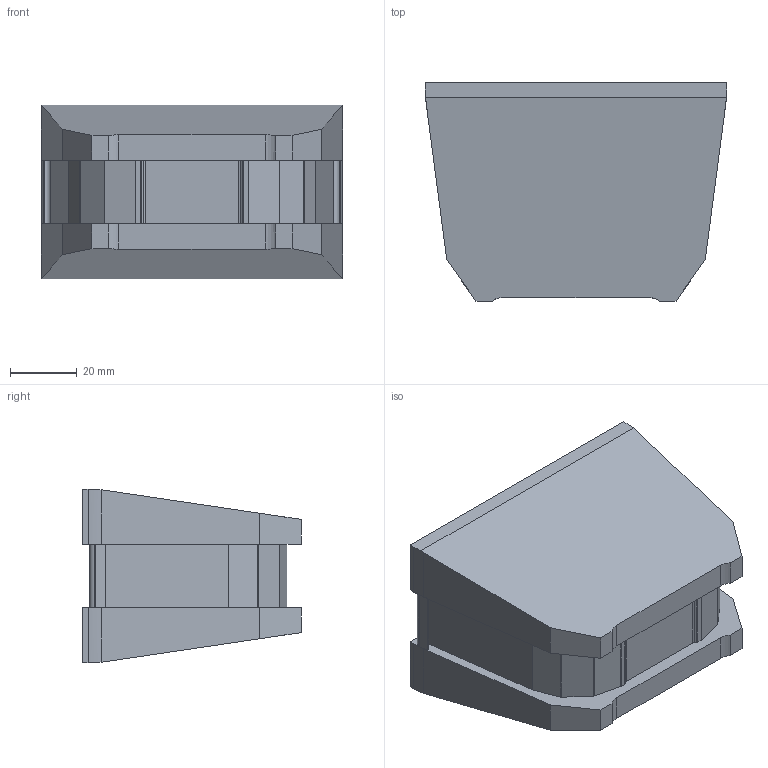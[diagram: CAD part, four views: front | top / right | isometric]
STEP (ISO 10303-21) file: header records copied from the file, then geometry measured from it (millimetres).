
FILE_DESCRIPTION (( 'STEP AP214' ), '1' );
FILE_NAME ('Besteckschale NL 50 L52.step', '2010-09-21T13:13:29', ( 'grass' ), ( '' ), 'SwSTEP 2.0', 'SolidWorks 2010', '' );
FILE_SCHEMA (( 'AUTOMOTIVE_DESIGN' ));
Length unit declared in the file: millimetre
Products named in the file (1): Besteckschale NL 50 L52
Bounding box: 90.5 x 65.5 x 52 mm (x, y, z)
Volume: 49676.2 mm3; surface area: 36467.6 mm2
Topology: 1 solids, 1 shells, 112 faces, 324 edges, 216 vertices
Faces by surface type: plane 80, cylinder 32
Entity records: 3702 total; most frequent: CARTESIAN_POINT 677, ORIENTED_EDGE 648, DIRECTION 602, EDGE_CURVE 324, LINE 256, VECTOR 256, VERTEX_POINT 216, AXIS2_PLACEMENT_3D 173
